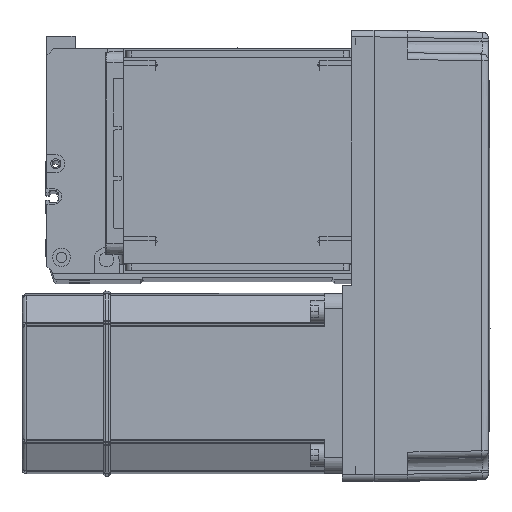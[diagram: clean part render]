
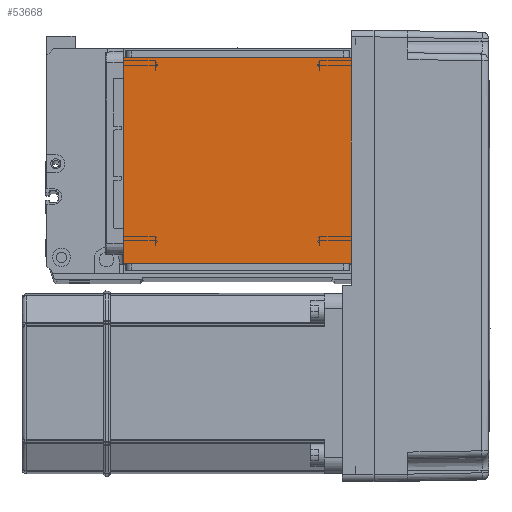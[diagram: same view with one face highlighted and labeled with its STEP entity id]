
A CAD part, top view. The second image highlights one B-rep face of the part: STEP entity #53668.
In plain terms, the highlighted planar face has unit normal (0, 0, 1).
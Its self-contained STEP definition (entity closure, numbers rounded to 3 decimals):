
#1166 = VECTOR ( 'NONE', #6425, 1000. ) ;
#1475 = VECTOR ( 'NONE', #41666, 1000. ) ;
#2270 = EDGE_CURVE ( 'NONE', #22674, #8081, #11813, .T. ) ;
#6425 = DIRECTION ( 'NONE',  ( 1., 0., 0. ) ) ;
#7379 = CARTESIAN_POINT ( 'NONE',  ( 50.5, 122., 115. ) ) ;
#8081 = VERTEX_POINT ( 'NONE', #14303 ) ;
#8395 = EDGE_CURVE ( 'NONE', #36535, #29669, #11295, .T. ) ;
#8736 = DIRECTION ( 'NONE',  ( 0., 0., 1. ) ) ;
#11295 = LINE ( 'NONE', #20385, #33688 ) ;
#11813 = LINE ( 'NONE', #7379, #39791 ) ;
#13382 = CARTESIAN_POINT ( 'NONE',  ( -50.5, 111.5, 115. ) ) ;
#13910 = ORIENTED_EDGE ( 'NONE', *, *, #2270, .T. ) ;
#14303 = CARTESIAN_POINT ( 'NONE',  ( 50.5, 111.5, 115. ) ) ;
#15968 = DIRECTION ( 'NONE',  ( 0., 1., 0. ) ) ;
#18685 = LINE ( 'NONE', #28927, #1166 ) ;
#20385 = CARTESIAN_POINT ( 'NONE',  ( -50.5, 122., 115. ) ) ;
#22212 = CARTESIAN_POINT ( 'NONE',  ( 0., 0., 115. ) ) ;
#22674 = VERTEX_POINT ( 'NONE', #33518 ) ;
#25304 = LINE ( 'NONE', #42042, #1475 ) ;
#26719 = DIRECTION ( 'NONE',  ( 1., 0., 0. ) ) ;
#28334 = EDGE_CURVE ( 'NONE', #22674, #29669, #25304, .T. ) ;
#28440 = ORIENTED_EDGE ( 'NONE', *, *, #39304, .F. ) ;
#28927 = CARTESIAN_POINT ( 'NONE',  ( -70.004, 111.5, 115. ) ) ;
#29669 = VERTEX_POINT ( 'NONE', #32105 ) ;
#30177 = ORIENTED_EDGE ( 'NONE', *, *, #8395, .T. ) ;
#30571 = FACE_OUTER_BOUND ( 'NONE', #51368, .T. ) ;
#31914 = AXIS2_PLACEMENT_3D ( 'NONE', #22212, #8736, #26719 ) ;
#32105 = CARTESIAN_POINT ( 'NONE',  ( -50.5, 20., 115. ) ) ;
#33518 = CARTESIAN_POINT ( 'NONE',  ( 50.5, 20., 115. ) ) ;
#33688 = VECTOR ( 'NONE', #51696, 1000. ) ;
#35473 = PLANE ( 'NONE',  #31914 ) ;
#36535 = VERTEX_POINT ( 'NONE', #13382 ) ;
#39304 = EDGE_CURVE ( 'NONE', #36535, #8081, #18685, .T. ) ;
#39791 = VECTOR ( 'NONE', #15968, 1000. ) ;
#41666 = DIRECTION ( 'NONE',  ( -1., 0., 0. ) ) ;
#42042 = CARTESIAN_POINT ( 'NONE',  ( -70.004, 20., 115. ) ) ;
#42415 = ORIENTED_EDGE ( 'NONE', *, *, #28334, .F. ) ;
#51368 = EDGE_LOOP ( 'NONE', ( #28440, #30177, #42415, #13910 ) ) ;
#51696 = DIRECTION ( 'NONE',  ( 0., -1., 0. ) ) ;
#53668 = ADVANCED_FACE ( 'NONE', ( #30571 ), #35473, .T. ) ;
